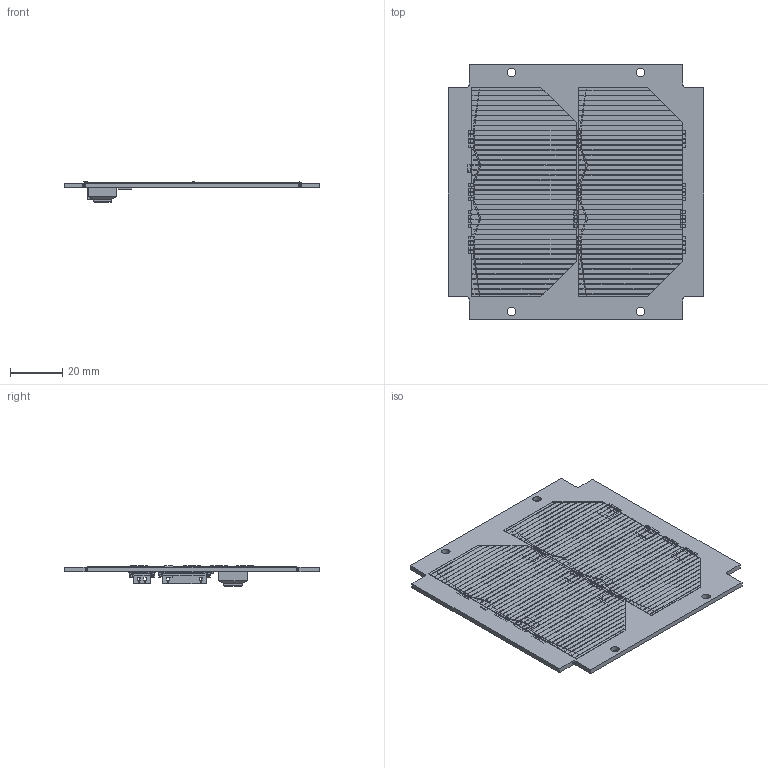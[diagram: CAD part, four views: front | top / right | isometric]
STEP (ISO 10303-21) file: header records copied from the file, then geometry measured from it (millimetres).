
FILE_DESCRIPTION(('Open CASCADE Model'),'2;1');
FILE_NAME('Open CASCADE Shape Model','2013-04-16T10:38:13',('Author'),( 'Open CASCADE'),'Open CASCADE STEP processor 6.2','Open CASCADE 6.2' ,'Unknown');
FILE_SCHEMA(('AUTOMOTIVE_DESIGN { 1 0 10303 214 1 1 1 1 }'));
Length unit declared in the file: millimetre
Products named in the file (41): PCB; Board; U2; adis16251; *; 533980471; Open CASCADE STEP translator 6.2 8.3.1.1; Open CASCADE STEP translator 6.2 8.3.1.2; H2; 533981271; Open CASCADE STEP translator 6.2 8.4.1.1; Open CASCADE STEP translator 6.2 8.4.1.2; D1; sunsensor; D3; 421952288; Extruded; PV4; 3G30C-anode; 3G28-base; 3G30C; covar-tab; covar-tab_1; PV5; 3G30C-cathode; covar-tab_2; U1; 421952416; C1; 421952672; C2; 421952544; S2
Assembly tree (47 placements, depth 4):
  PCB
    Board
    U2
      adis16251
    *
      533980471
        Open CASCADE STEP translator 6.2 8.3.1.1
        Open CASCADE STEP translator 6.2 8.3.1.2
    H2
      533981271
        Open CASCADE STEP translator 6.2 8.4.1.1
        Open CASCADE STEP translator 6.2 8.4.1.2
    D1
      sunsensor
    D3
      421952288
        Extruded
    PV4
      3G30C-anode
        3G28-base
        3G30C
        covar-tab  x6
        covar-tab_1
    PV5
      3G30C-cathode
        3G28-base
        3G30C
        covar-tab
        covar-tab_1
        covar-tab_2
        covar-tab  x2
    U1
      421952416
        Extruded
    C1
      421952672
        Extruded
    C2
      421952544
        Extruded
    S2
      533980471
        Open CASCADE STEP translator 6.2 8.3.1.1
        Open CASCADE STEP translator 6.2 8.3.1.2
Bounding box: 98 x 98 x 7.77 mm (x, y, z)
Volume: 18692.1 mm3; surface area: 35464.9 mm2
Topology: 38 solids, 38 shells, 2662 faces, 7510 edges, 5114 vertices
Faces by surface type: plane 2282, cylinder 380
Full cylindrical faces by diameter (mm): 3.2 x4
Entity records: 135465 total; most frequent: CARTESIAN_POINT 27464, DIRECTION 19515, LINE 14601, VECTOR 14601, ORIENTED_EDGE 10698, PCURVE 10698, DEFINITIONAL_REPRESENTATION 10698, EDGE_CURVE 5349
